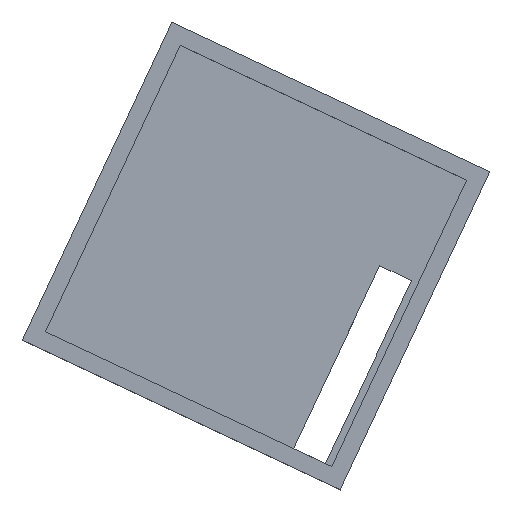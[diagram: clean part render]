
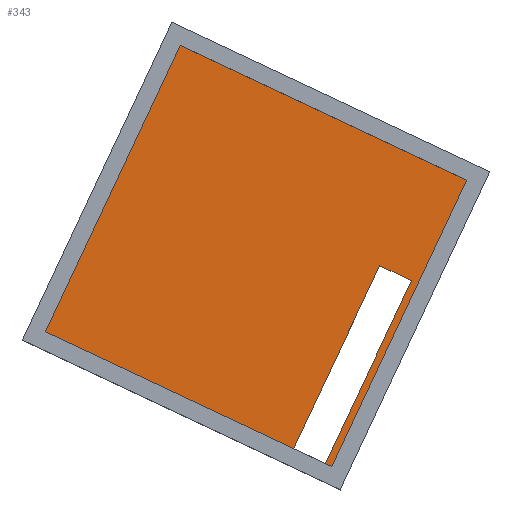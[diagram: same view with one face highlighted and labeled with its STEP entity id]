
A CAD part, top view. The second image highlights one B-rep face of the part: STEP entity #343.
In plain terms, the highlighted planar face has unit normal (0, 0, 1).
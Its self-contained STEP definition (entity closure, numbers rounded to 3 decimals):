
#238 = VERTEX_POINT('',#239);
#239 = CARTESIAN_POINT('',(-7.382,8.502,4.75));
#245 = EDGE_CURVE('',#238,#246,#248,.T.);
#246 = VERTEX_POINT('',#247);
#247 = CARTESIAN_POINT('',(-8.149,6.874,4.75));
#248 = LINE('',#249,#250);
#249 = CARTESIAN_POINT('',(-7.382,8.502,4.75));
#250 = VECTOR('',#251,1.);
#251 = DIRECTION('',(-0.426,-0.905,0.));
#268 = EDGE_CURVE('',#238,#269,#271,.T.);
#269 = VERTEX_POINT('',#270);
#270 = CARTESIAN_POINT('',(-9.011,9.269,4.75));
#271 = LINE('',#272,#273);
#272 = CARTESIAN_POINT('',(-7.382,8.502,4.75));
#273 = VECTOR('',#274,1.);
#274 = DIRECTION('',(-0.905,0.426,0.));
#293 = EDGE_CURVE('',#269,#294,#296,.T.);
#294 = VERTEX_POINT('',#295);
#295 = CARTESIAN_POINT('',(-9.778,7.64,4.75));
#296 = LINE('',#297,#298);
#297 = CARTESIAN_POINT('',(-9.011,9.269,4.75));
#298 = VECTOR('',#299,1.);
#299 = DIRECTION('',(-0.426,-0.905,0.));
#317 = VERTEX_POINT('',#318);
#318 = CARTESIAN_POINT('',(-7.876,8.017,4.75));
#326 = VERTEX_POINT('',#327);
#327 = CARTESIAN_POINT('',(-7.695,7.931,4.75));
#333 = EDGE_CURVE('',#326,#317,#334,.T.);
#334 = LINE('',#335,#336);
#335 = CARTESIAN_POINT('',(-7.677,7.923,4.75));
#336 = VECTOR('',#337,1.);
#337 = DIRECTION('',(-0.905,0.426,0.));
#343 = ADVANCED_FACE('',(#344),#378,.T.);
#344 = FACE_BOUND('',#345,.T.);
#345 = EDGE_LOOP('',(#346,#354,#355,#356,#357,#365,#371,#372));
#346 = ORIENTED_EDGE('',*,*,#347,.F.);
#347 = EDGE_CURVE('',#246,#348,#350,.T.);
#348 = VERTEX_POINT('',#349);
#349 = CARTESIAN_POINT('',(-8.185,6.891,4.75));
#350 = LINE('',#351,#352);
#351 = CARTESIAN_POINT('',(-8.149,6.874,4.75));
#352 = VECTOR('',#353,1.);
#353 = DIRECTION('',(-0.905,0.426,0.));
#354 = ORIENTED_EDGE('',*,*,#245,.F.);
#355 = ORIENTED_EDGE('',*,*,#268,.T.);
#356 = ORIENTED_EDGE('',*,*,#293,.T.);
#357 = ORIENTED_EDGE('',*,*,#358,.F.);
#358 = EDGE_CURVE('',#359,#294,#361,.T.);
#359 = VERTEX_POINT('',#360);
#360 = CARTESIAN_POINT('',(-8.366,6.976,4.75));
#361 = LINE('',#362,#363);
#362 = CARTESIAN_POINT('',(-8.149,6.874,4.75));
#363 = VECTOR('',#364,1.);
#364 = DIRECTION('',(-0.905,0.426,0.));
#365 = ORIENTED_EDGE('',*,*,#366,.T.);
#366 = EDGE_CURVE('',#359,#317,#367,.T.);
#367 = LINE('',#368,#369);
#368 = CARTESIAN_POINT('',(-7.876,8.017,4.75));
#369 = VECTOR('',#370,1.);
#370 = DIRECTION('',(0.426,0.905,0.));
#371 = ORIENTED_EDGE('',*,*,#333,.F.);
#372 = ORIENTED_EDGE('',*,*,#373,.F.);
#373 = EDGE_CURVE('',#348,#326,#374,.T.);
#374 = LINE('',#375,#376);
#375 = CARTESIAN_POINT('',(-7.557,8.225,4.75));
#376 = VECTOR('',#377,1.);
#377 = DIRECTION('',(0.426,0.905,0.));
#378 = PLANE('',#379);
#379 = AXIS2_PLACEMENT_3D('',#380,#381,#382);
#380 = CARTESIAN_POINT('',(-7.382,8.502,4.75));
#381 = DIRECTION('',(0.,0.,1.));
#382 = DIRECTION('',(-0.905,0.426,0.));
